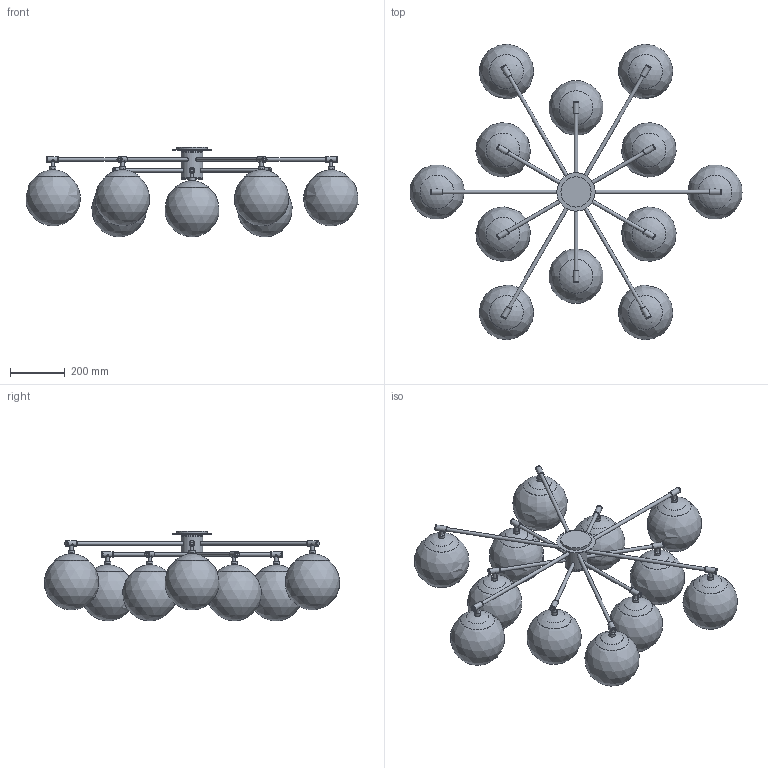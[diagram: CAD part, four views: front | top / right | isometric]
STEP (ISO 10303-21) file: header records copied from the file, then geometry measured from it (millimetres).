
FILE_DESCRIPTION(/* description */ (''),/* implementation_level */ '2;1');
FILE_NAME(/* name */ 'T:\B300 Globe Orion 48''''\Pliki bryłowe handlowe\B300 Orion Round 3D files_na stronę\B300 Orion Round.stp',/* time_stamp */ '2022-02-02T15:39:37+01:00',/* author */ ('Mariusz Awariusz'),/* organization */ (''),/* preprocessor_version */ 'ST-DEVELOPER v18.1',/* originating_system */ 'Autodesk Inventor 2022',/* authorisation */ '');
FILE_SCHEMA (('AUTOMOTIVE_DESIGN { 1 0 10303 214 3 1 1 }'));
Length unit declared in the file: millimetre
Products named in the file (1): B300 Globe Orion 48'' v3 CE_do katalogu tech_na potrzeby plików
 3D_jako część_korpusy bryłowe
Bounding box: 1209.92 x 1076.56 x 326.8 mm (x, y, z)
Volume: 4577882.8 mm3; surface area: 3562090.1 mm2
Topology: 89 solids, 89 shells, 643 faces, 1039 edges, 650 vertices
Faces by surface type: plane 230, cylinder 189, cone 152, torus 24, bspline 24, sphere 24
Full cylindrical faces by diameter (mm): 8.6 x12, 10 x12, 11.6 x24, 13 x48, 14.7 x12, 16 x24, 20 x24, 22 x12, 74 x2, 77 x2, 80 x3, 80.221 x12, 110 x1, 140 x1
Entity records: 15744 total; most frequent: CARTESIAN_POINT 3365, DIRECTION 2929, ORIENTED_EDGE 2030, AXIS2_PLACEMENT_3D 1294, EDGE_CURVE 1015, EDGE_LOOP 767, CIRCLE 674, VERTEX_POINT 650
